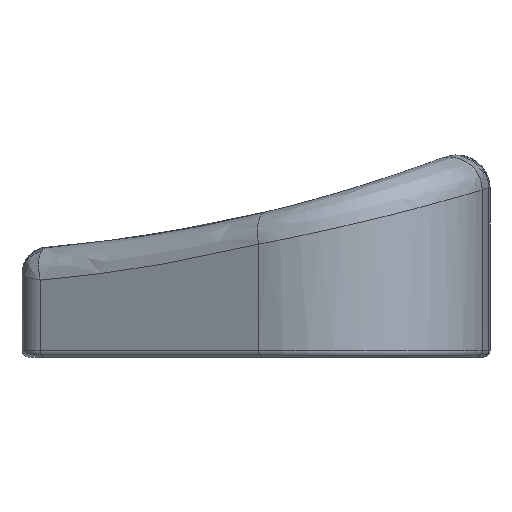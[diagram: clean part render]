
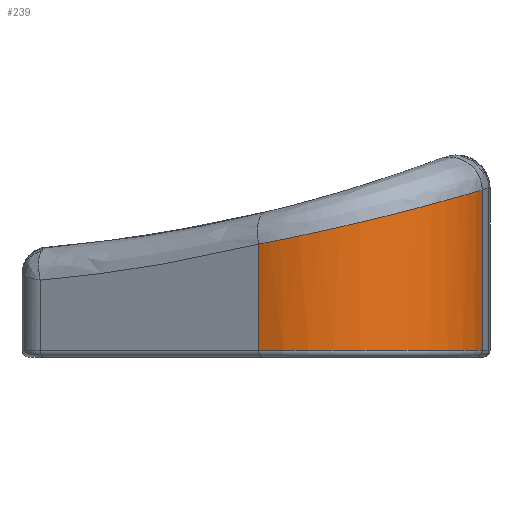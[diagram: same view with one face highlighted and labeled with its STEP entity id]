
A CAD part, front view. The second image highlights one B-rep face of the part: STEP entity #239.
In plain terms, the highlighted cylindrical face has radius 12 mm (diameter 24 mm), a partial arc.
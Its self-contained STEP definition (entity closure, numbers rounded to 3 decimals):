
#141=CIRCLE('',#1046,12.);
#173=LINE('',#1915,#191);
#174=LINE('',#1955,#192);
#191=VECTOR('',#1119,1.);
#192=VECTOR('',#1120,1.);
#206=CYLINDRICAL_SURFACE('',#1047,12.);
#239=ADVANCED_FACE('',(#315),#206,.T.);
#315=FACE_OUTER_BOUND('',#381,.T.);
#381=EDGE_LOOP('',(#505,#506,#507,#508));
#505=ORIENTED_EDGE('',*,*,#862,.T.);
#506=ORIENTED_EDGE('',*,*,#863,.T.);
#507=ORIENTED_EDGE('',*,*,#859,.F.);
#508=ORIENTED_EDGE('',*,*,#864,.T.);
#765=VERTEX_POINT('',#1916);
#766=VERTEX_POINT('',#1917);
#767=VERTEX_POINT('',#1956);
#768=VERTEX_POINT('',#1957);
#859=EDGE_CURVE('',#765,#766,#173,.T.);
#862=EDGE_CURVE('',#767,#768,#174,.T.);
#863=EDGE_CURVE('',#768,#766,#141,.T.);
#864=EDGE_CURVE('',#765,#767,#994,.T.);
#994=B_SPLINE_CURVE_WITH_KNOTS('',3,(#1959,#1960,#1961,#1962,#1963,#1964),
 .UNSPECIFIED.,.F.,.F.,(4,2,4),(0.,0.5,1.),.UNSPECIFIED.);
#1046=AXIS2_PLACEMENT_3D('',#1958,#1121,#1122);
#1047=AXIS2_PLACEMENT_3D('',#1965,#1123,#1124);
#1119=DIRECTION('',(0.,0.,-1.));
#1120=DIRECTION('',(0.,0.,-1.));
#1121=DIRECTION('',(0.,0.,1.));
#1122=DIRECTION('',(0.,1.,0.));
#1123=DIRECTION('',(0.,0.,-1.));
#1124=DIRECTION('',(-1.,0.,0.));
#1915=CARTESIAN_POINT('',(141.75,52.131,109.47));
#1916=CARTESIAN_POINT('',(141.75,52.131,100.154));
#1917=CARTESIAN_POINT('',(141.75,52.131,87.97));
#1955=CARTESIAN_POINT('',(124.767,43.959,109.47));
#1956=CARTESIAN_POINT('',(124.767,43.959,96.038));
#1957=CARTESIAN_POINT('',(124.767,43.959,87.97));
#1958=CARTESIAN_POINT('',(130.037,54.739,87.97));
#1959=CARTESIAN_POINT('',(141.75,52.131,100.154));
#1960=CARTESIAN_POINT('',(140.943,48.511,99.923));
#1961=CARTESIAN_POINT('',(138.438,45.451,99.189));
#1962=CARTESIAN_POINT('',(131.968,42.365,97.544));
#1963=CARTESIAN_POINT('',(128.055,42.351,96.669));
#1964=CARTESIAN_POINT('',(124.767,43.959,96.038));
#1965=CARTESIAN_POINT('',(130.037,54.739,109.47));
